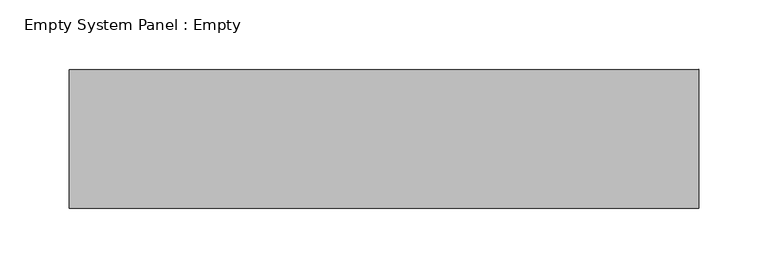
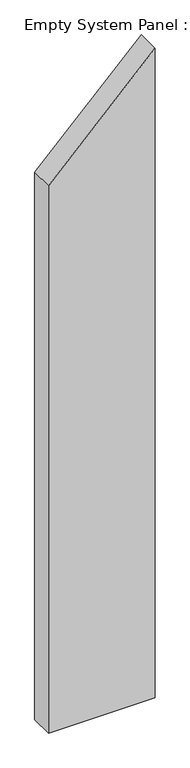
"""IFC4 building model written with IfcOpenShell, lengths in millimetres: plate geometry, Empty System Panel : Empty."""

from ifc_helpers import new_model, si_unit, frame, origin, place, context, project, spatial, polyline, outline, extrude, source, transform, mapped, element, save


def empty_system_panel_empty_992e3d3a(model_context):
    return source(origin(), model_context, "Body", "SweptSolid", [
        extrude(outline(polyline([(0.0, -226.4404253), (0.0, 226.4404253), (2913.2598979, 226.4404253), (2455.3124786, -226.4404253), (0.0, -226.4404253)])), frame((0.0, -50.0, 0.0), z_axis=(0.0, 1.0, 0.0), x_axis=(0.0, 0.0, 1.0)), (0.0, 0.0, 1.0), 100.0),
    ])


if __name__ == "__main__":
    model = new_model("IFC4")
    model_context = context("Model", 3, world=origin())
    ifc_project = project(units=[si_unit("LENGTHUNIT", "METRE", prefix="MILLI")], contexts=[model_context])
    site = spatial("IfcSite", under=ifc_project)
    building = spatial("IfcBuilding", under=site)
    placement = place(None, origin())
    empty_system_panel_empty_shape = empty_system_panel_empty_992e3d3a(model_context)
    element("IfcPlate", 1, ObjectType="Empty System Panel : Empty", at=placement, inside=building, context=model_context, shape_type="MappedRepresentation", body=[
        mapped(empty_system_panel_empty_shape, transform((0.0, 0.0, 0.0), x_axis=(1.0, 0.0, 0.0), y_axis=(0.0, 1.0, 0.0), z_axis=(0.0, 0.0, 1.0))),
    ])
    save(model, "model.ifc")
